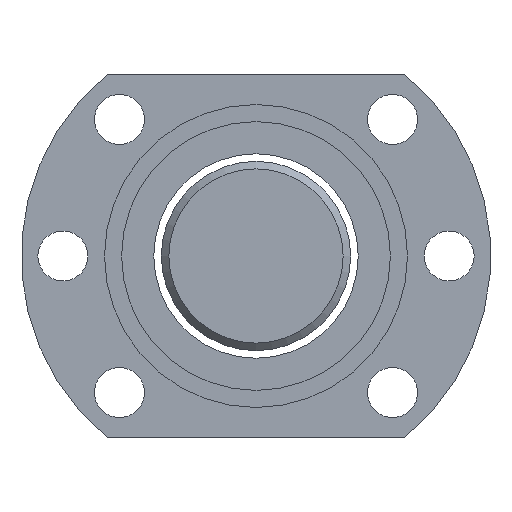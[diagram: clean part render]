
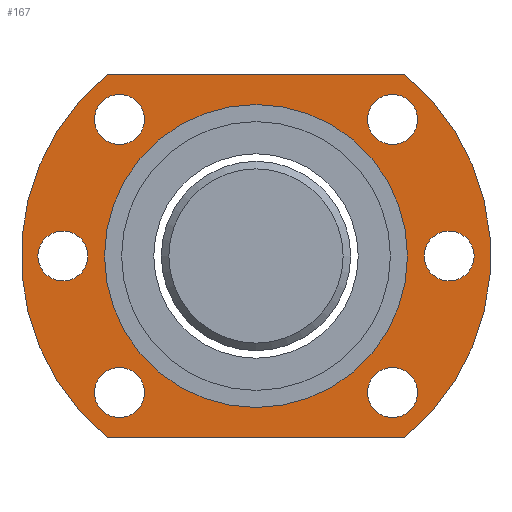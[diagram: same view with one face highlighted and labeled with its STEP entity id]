
A CAD part, left-side view. The second image highlights one B-rep face of the part: STEP entity #167.
In plain terms, the highlighted planar face has unit normal (-1, 0, 0).
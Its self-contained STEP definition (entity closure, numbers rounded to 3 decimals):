
#113=LINE('',#1132,#121);
#114=LINE('',#1136,#122);
#121=VECTOR('',#930,1.);
#122=VECTOR('',#933,1.);
#136=PLANE('',#782);
#167=ADVANCED_FACE('',(#267,#268,#269,#270,#271,#272,#273,#274),#136,.T.);
#267=FACE_BOUND('',#367,.T.);
#268=FACE_BOUND('',#368,.T.);
#269=FACE_BOUND('',#369,.T.);
#270=FACE_BOUND('',#370,.T.);
#271=FACE_BOUND('',#371,.T.);
#272=FACE_BOUND('',#372,.T.);
#273=FACE_BOUND('',#373,.T.);
#274=FACE_BOUND('',#374,.T.);
#367=EDGE_LOOP('',(#476));
#368=EDGE_LOOP('',(#477));
#369=EDGE_LOOP('',(#478,#479,#480,#481));
#370=EDGE_LOOP('',(#482));
#371=EDGE_LOOP('',(#483));
#372=EDGE_LOOP('',(#484));
#373=EDGE_LOOP('',(#485));
#374=EDGE_LOOP('',(#486));
#476=ORIENTED_EDGE('',*,*,#641,.T.);
#477=ORIENTED_EDGE('',*,*,#630,.F.);
#478=ORIENTED_EDGE('',*,*,#642,.T.);
#479=ORIENTED_EDGE('',*,*,#643,.T.);
#480=ORIENTED_EDGE('',*,*,#644,.T.);
#481=ORIENTED_EDGE('',*,*,#645,.T.);
#482=ORIENTED_EDGE('',*,*,#646,.F.);
#483=ORIENTED_EDGE('',*,*,#647,.F.);
#484=ORIENTED_EDGE('',*,*,#648,.F.);
#485=ORIENTED_EDGE('',*,*,#649,.T.);
#486=ORIENTED_EDGE('',*,*,#650,.T.);
#572=VERTEX_POINT('',#1104);
#583=VERTEX_POINT('',#1128);
#584=VERTEX_POINT('',#1130);
#585=VERTEX_POINT('',#1131);
#586=VERTEX_POINT('',#1133);
#587=VERTEX_POINT('',#1135);
#588=VERTEX_POINT('',#1138);
#589=VERTEX_POINT('',#1140);
#590=VERTEX_POINT('',#1142);
#591=VERTEX_POINT('',#1144);
#592=VERTEX_POINT('',#1146);
#630=EDGE_CURVE('',#572,#572,#692,.T.);
#641=EDGE_CURVE('',#583,#583,#701,.T.);
#642=EDGE_CURVE('',#584,#585,#702,.T.);
#643=EDGE_CURVE('',#585,#586,#113,.T.);
#644=EDGE_CURVE('',#586,#587,#703,.T.);
#645=EDGE_CURVE('',#587,#584,#114,.T.);
#646=EDGE_CURVE('',#588,#588,#704,.T.);
#647=EDGE_CURVE('',#589,#589,#705,.T.);
#648=EDGE_CURVE('',#590,#590,#706,.T.);
#649=EDGE_CURVE('',#591,#591,#707,.T.);
#650=EDGE_CURVE('',#592,#592,#708,.T.);
#692=CIRCLE('',#763,20.);
#701=CIRCLE('',#774,3.3);
#702=CIRCLE('',#775,31.);
#703=CIRCLE('',#776,31.);
#704=CIRCLE('',#777,3.3);
#705=CIRCLE('',#778,3.3);
#706=CIRCLE('',#779,3.3);
#707=CIRCLE('',#780,3.3);
#708=CIRCLE('',#781,3.3);
#763=AXIS2_PLACEMENT_3D('',#1103,#902,#903);
#774=AXIS2_PLACEMENT_3D('',#1127,#926,#927);
#775=AXIS2_PLACEMENT_3D('',#1129,#928,#929);
#776=AXIS2_PLACEMENT_3D('',#1134,#931,#932);
#777=AXIS2_PLACEMENT_3D('',#1137,#934,#935);
#778=AXIS2_PLACEMENT_3D('',#1139,#936,#937);
#779=AXIS2_PLACEMENT_3D('',#1141,#938,#939);
#780=AXIS2_PLACEMENT_3D('',#1143,#940,#941);
#781=AXIS2_PLACEMENT_3D('',#1145,#942,#943);
#782=AXIS2_PLACEMENT_3D('',#1147,#944,#945);
#902=DIRECTION('',(-1.,0.,0.));
#903=DIRECTION('',(0.,0.,-1.));
#926=DIRECTION('',(1.,0.,0.));
#927=DIRECTION('',(0.,0.,1.));
#928=DIRECTION('',(-1.,0.,0.));
#929=DIRECTION('',(0.,0.,-1.));
#930=DIRECTION('',(0.,-1.,0.));
#931=DIRECTION('',(-1.,0.,0.));
#932=DIRECTION('',(0.,0.,-1.));
#933=DIRECTION('',(0.,1.,0.));
#934=DIRECTION('',(-1.,0.,0.));
#935=DIRECTION('',(0.,0.,1.));
#936=DIRECTION('',(-1.,0.,0.));
#937=DIRECTION('',(0.,0.,1.));
#938=DIRECTION('',(-1.,0.,0.));
#939=DIRECTION('',(0.,0.,1.));
#940=DIRECTION('',(1.,0.,0.));
#941=DIRECTION('',(0.,0.,1.));
#942=DIRECTION('',(1.,0.,0.));
#943=DIRECTION('',(0.,0.,1.));
#944=DIRECTION('',(-1.,0.,0.));
#945=DIRECTION('',(0.,0.,1.));
#1103=CARTESIAN_POINT('',(-65.485,-52.353,-3.633));
#1104=CARTESIAN_POINT('',(-65.485,-52.353,-23.633));
#1127=CARTESIAN_POINT('',(-65.485,-77.853,-3.633));
#1128=CARTESIAN_POINT('',(-65.485,-77.853,-0.333));
#1129=CARTESIAN_POINT('',(-65.485,-52.353,-3.633));
#1130=CARTESIAN_POINT('',(-65.485,-32.731,20.367));
#1131=CARTESIAN_POINT('',(-65.485,-32.731,-27.633));
#1132=CARTESIAN_POINT('',(-65.485,-32.731,-27.633));
#1133=CARTESIAN_POINT('',(-65.485,-71.974,-27.633));
#1134=CARTESIAN_POINT('',(-65.485,-52.353,-3.633));
#1135=CARTESIAN_POINT('',(-65.485,-71.974,20.367));
#1136=CARTESIAN_POINT('',(-65.485,-71.974,20.367));
#1137=CARTESIAN_POINT('',(-65.485,-26.853,-3.633));
#1138=CARTESIAN_POINT('',(-65.485,-26.853,-0.333));
#1139=CARTESIAN_POINT('',(-65.485,-34.322,14.398));
#1140=CARTESIAN_POINT('',(-65.485,-34.322,17.698));
#1141=CARTESIAN_POINT('',(-65.485,-34.322,-21.665));
#1142=CARTESIAN_POINT('',(-65.485,-34.322,-18.365));
#1143=CARTESIAN_POINT('',(-65.485,-70.384,-21.665));
#1144=CARTESIAN_POINT('',(-65.485,-70.384,-18.365));
#1145=CARTESIAN_POINT('',(-65.485,-70.384,14.398));
#1146=CARTESIAN_POINT('',(-65.485,-70.384,17.698));
#1147=CARTESIAN_POINT('',(-65.485,-52.353,-3.633));
